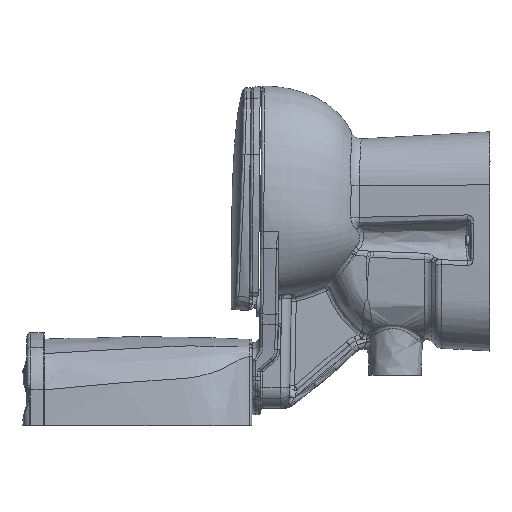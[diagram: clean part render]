
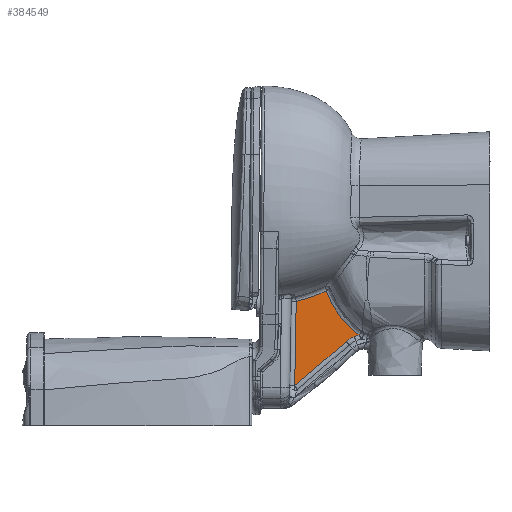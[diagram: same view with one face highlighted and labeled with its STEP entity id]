
A CAD part, left-side view. The second image highlights one B-rep face of the part: STEP entity #384549.
In plain terms, the highlighted planar face has unit normal (-1, 0, 0).
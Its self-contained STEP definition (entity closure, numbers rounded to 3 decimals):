
#189 = CARTESIAN_POINT ( 'NONE',  ( -7., -161.252, -149.283 ) ) ;
#6263 = CARTESIAN_POINT ( 'NONE',  ( -7., -83.261, -100.94 ) ) ;
#13495 = CARTESIAN_POINT ( 'NONE',  ( -7., -163.195, -187.714 ) ) ;
#17081 = VECTOR ( 'NONE', #127620, 1000. ) ;
#25602 = ORIENTED_EDGE ( 'NONE', *, *, #282944, .F. ) ;
#29488 = CARTESIAN_POINT ( 'NONE',  ( -7., -136.653, -115.303 ) ) ;
#31544 = CARTESIAN_POINT ( 'NONE',  ( -7., -189.171, -173.817 ) ) ;
#33599 = CARTESIAN_POINT ( 'NONE',  ( -7., -181.565, -168.305 ) ) ;
#37333 = EDGE_CURVE ( 'NONE', #352634, #136384, #273260, .T. ) ;
#41791 = CARTESIAN_POINT ( 'NONE',  ( -7., -189.171, -173.817 ) ) ;
#46927 = CARTESIAN_POINT ( 'NONE',  ( -7., -178.153, -177.955 ) ) ;
#80322 = CARTESIAN_POINT ( 'NONE',  ( -7., -176.65, -178.607 ) ) ;
#81230 = CARTESIAN_POINT ( 'NONE',  ( -7., -95.154, -248.185 ) ) ;
#88366 = CARTESIAN_POINT ( 'NONE',  ( -7., -163.195, -187.714 ) ) ;
#92147 = CARTESIAN_POINT ( 'NONE',  ( -7., -148.816, -133.872 ) ) ;
#95690 = CARTESIAN_POINT ( 'NONE',  ( -7., -189.171, -173.817 ) ) ;
#97973 = CARTESIAN_POINT ( 'NONE',  ( -7., -179.685, -177.379 ) ) ;
#110483 = CARTESIAN_POINT ( 'NONE',  ( -7., -77.502, -262.548 ) ) ;
#125528 = CARTESIAN_POINT ( 'NONE',  ( -7., -155.133, -142.295 ) ) ;
#127620 = DIRECTION ( 'NONE',  ( 0., -0.017, 1. ) ) ;
#133806 = ORIENTED_EDGE ( 'NONE', *, *, #167483, .F. ) ;
#136384 = VERTEX_POINT ( 'NONE', #88366 ) ;
#137736 = CARTESIAN_POINT ( 'NONE',  ( -7., -123.112, -85.639 ) ) ;
#141782 = CARTESIAN_POINT ( 'NONE',  ( -7., -68.584, -269.615 ) ) ;
#142951 = CARTESIAN_POINT ( 'NONE',  ( -7., -165.566, -185.459 ) ) ;
#163064 = PLANE ( 'NONE',  #337235 ) ;
#164976 = CARTESIAN_POINT ( 'NONE',  ( -7., -103.45, -94.063 ) ) ;
#167483 = EDGE_CURVE ( 'NONE', #346740, #306913, #298215, .T. ) ;
#173087 = CARTESIAN_POINT ( 'NONE',  ( -7., -146.702, -203.403 ) ) ;
#190238 = CARTESIAN_POINT ( 'NONE',  ( -7., -126.264, -94.488 ) ) ;
#192303 = CARTESIAN_POINT ( 'NONE',  ( -7., -144.071, -127.175 ) ) ;
#200076 = VERTEX_POINT ( 'NONE', #408240 ) ;
#204377 = EDGE_CURVE ( 'NONE', #233013, #346740, #373189, .T. ) ;
#207682 = CARTESIAN_POINT ( 'NONE',  ( -7., -173.722, -180.057 ) ) ;
#209736 = B_SPLINE_CURVE_WITH_KNOTS ( 'NONE', 3,
 ( #273284, #173087, #367245, #400618, #81230, #110483, #141782, #237823 ),
 .UNSPECIFIED., .F., .F.,
 ( 4, 2, 2, 4 ),
 ( 0., 0.068, 0.102, 0.137 ),
 .UNSPECIFIED. ) ;
#223055 = CARTESIAN_POINT ( 'NONE',  ( -7., -182.847, -176.192 ) ) ;
#225727 = DIRECTION ( 'NONE',  ( 0., 1., 0. ) ) ;
#229822 = FACE_OUTER_BOUND ( 'NONE', #263160, .T. ) ;
#233013 = VERTEX_POINT ( 'NONE', #314313 ) ;
#237823 = CARTESIAN_POINT ( 'NONE',  ( -7., -59.573, -276.567 ) ) ;
#245171 = CARTESIAN_POINT ( 'NONE',  ( -7., -168.138, -183.461 ) ) ;
#259089 = DIRECTION ( 'NONE',  ( 1., 0., 0. ) ) ;
#261004 = CARTESIAN_POINT ( 'NONE',  ( -7., -62.546, -106.274 ) ) ;
#263160 = EDGE_LOOP ( 'NONE', ( #289542, #363841, #270908, #331701, #25602, #133806 ) ) ;
#267148 = CARTESIAN_POINT ( 'NONE',  ( -7., -113.372, -90.119 ) ) ;
#270336 = CARTESIAN_POINT ( 'NONE',  ( -7., -123.112, -85.639 ) ) ;
#270908 = ORIENTED_EDGE ( 'NONE', *, *, #315456, .F. ) ;
#273260 = B_SPLINE_CURVE_WITH_KNOTS ( 'NONE', 3,
 ( #335047, #46927, #80322, #207682, #399728, #245171, #142951, #13495 ),
 .UNSPECIFIED., .F., .F.,
 ( 4, 2, 2, 4 ),
 ( 0., 0.005, 0.01, 0.02 ),
 .UNSPECIFIED. ) ;
#273284 = CARTESIAN_POINT ( 'NONE',  ( -7., -163.195, -187.714 ) ) ;
#282161 = CARTESIAN_POINT ( 'NONE',  ( -7., -146.073, -130.066 ) ) ;
#282944 = EDGE_CURVE ( 'NONE', #306913, #352634, #374393, .T. ) ;
#289542 = ORIENTED_EDGE ( 'NONE', *, *, #204377, .F. ) ;
#290376 = CARTESIAN_POINT ( 'NONE',  ( -7., -123.112, -85.639 ) ) ;
#290419 = CARTESIAN_POINT ( 'NONE',  ( -7., -3., -5. ) ) ;
#298215 = B_SPLINE_CURVE_WITH_KNOTS ( 'NONE', 3,
 ( #290376, #190238, #350974, #29488, #346851, #411539, #192303, #282161, #378160, #317583, #92147, #125528, #189, #353023, #33599, #31544 ),
 .UNSPECIFIED., .F., .F.,
 ( 4, 2, 2, 2, 2, 2, 2, 4 ),
 ( 0., 0.028, 0.042, 0.049, 0.052, 0.056, 0.084, 0.112 ),
 .UNSPECIFIED. ) ;
#306913 = VERTEX_POINT ( 'NONE', #41791 ) ;
#314313 = CARTESIAN_POINT ( 'NONE',  ( -7., -62.546, -106.274 ) ) ;
#315456 = EDGE_CURVE ( 'NONE', #136384, #200076, #209736, .T. ) ;
#317583 = CARTESIAN_POINT ( 'NONE',  ( -7., -148.122, -132.929 ) ) ;
#323799 = LINE ( 'NONE', #384381, #17081 ) ;
#331701 = ORIENTED_EDGE ( 'NONE', *, *, #37333, .F. ) ;
#335047 = CARTESIAN_POINT ( 'NONE',  ( -7., -179.685, -177.379 ) ) ;
#337235 = AXIS2_PLACEMENT_3D ( 'NONE', #290419, #259089, #225727 ) ;
#346740 = VERTEX_POINT ( 'NONE', #270336 ) ;
#346851 = CARTESIAN_POINT ( 'NONE',  ( -7., -139.008, -119.322 ) ) ;
#348336 = CARTESIAN_POINT ( 'NONE',  ( -7., -179.685, -177.379 ) ) ;
#350974 = CARTESIAN_POINT ( 'NONE',  ( -7., -130.05, -103.007 ) ) ;
#352634 = VERTEX_POINT ( 'NONE', #97973 ) ;
#353023 = CARTESIAN_POINT ( 'NONE',  ( -7., -174.467, -162.288 ) ) ;
#363841 = ORIENTED_EDGE ( 'NONE', *, *, #384359, .F. ) ;
#367245 = CARTESIAN_POINT ( 'NONE',  ( -7., -129.807, -218.664 ) ) ;
#373189 = B_SPLINE_CURVE_WITH_KNOTS ( 'NONE', 3,
 ( #261004, #388342, #6263, #164976, #267148, #137736 ),
 .UNSPECIFIED., .F., .F.,
 ( 4, 2, 4 ),
 ( 0., 0.032, 0.064 ),
 .UNSPECIFIED. ) ;
#374393 = B_SPLINE_CURVE_WITH_KNOTS ( 'NONE', 3,
 ( #95690, #410955, #223055, #348336 ),
 .UNSPECIFIED., .F., .F.,
 ( 4, 4 ),
 ( 0.011, 0.021 ),
 .UNSPECIFIED. ) ;
#378160 = CARTESIAN_POINT ( 'NONE',  ( -7., -146.75, -131.025 ) ) ;
#384359 = EDGE_CURVE ( 'NONE', #200076, #233013, #323799, .T. ) ;
#384381 = CARTESIAN_POINT ( 'NONE',  ( -7., -64.295, -6.07 ) ) ;
#384549 = ADVANCED_FACE ( 'NONE', ( #229822 ), #163064, .F. ) ;
#388342 = CARTESIAN_POINT ( 'NONE',  ( -7., -72.991, -103.864 ) ) ;
#399728 = CARTESIAN_POINT ( 'NONE',  ( -7., -172.297, -180.853 ) ) ;
#400618 = CARTESIAN_POINT ( 'NONE',  ( -7., -103.89, -240.888 ) ) ;
#408240 = CARTESIAN_POINT ( 'NONE',  ( -7., -59.573, -276.567 ) ) ;
#410955 = CARTESIAN_POINT ( 'NONE',  ( -7., -186.009, -175.004 ) ) ;
#411539 = CARTESIAN_POINT ( 'NONE',  ( -7., -142.776, -125.227 ) ) ;
